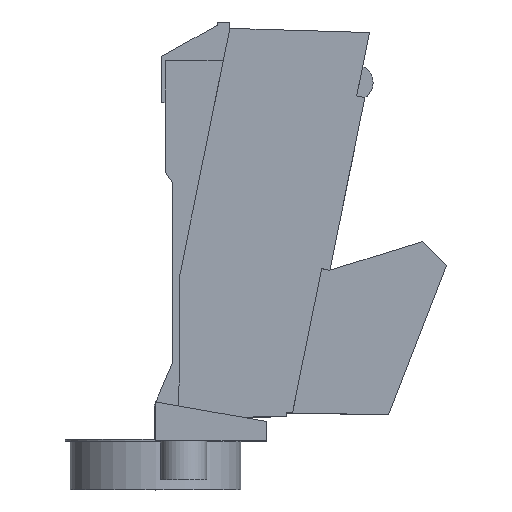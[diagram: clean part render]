
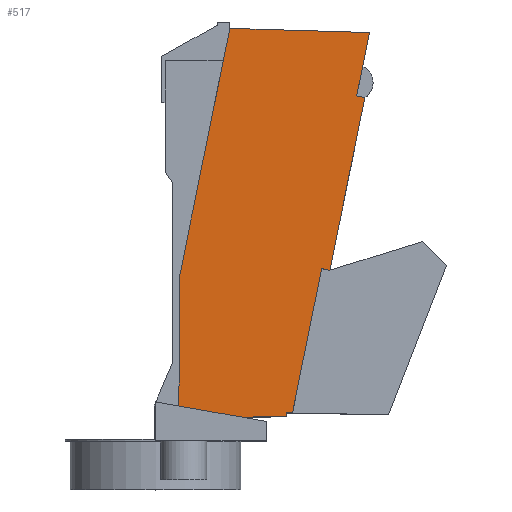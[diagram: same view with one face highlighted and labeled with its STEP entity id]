
A CAD part, top view. The second image highlights one B-rep face of the part: STEP entity #517.
In plain terms, the highlighted planar face has unit normal (0, 0, 1).
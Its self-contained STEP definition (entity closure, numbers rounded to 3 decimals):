
#18 = AXIS2_PLACEMENT_3D ( 'NONE', #1692, #1698, #1699 ) ;
#102 = AXIS2_PLACEMENT_3D ( 'NONE', #1402, #1401, #1400 ) ;
#172 = EDGE_CURVE ( 'NONE', #1347, #1397, #665, .T. ) ;
#173 = EDGE_CURVE ( 'NONE', #1298, #1333, #666, .T. ) ;
#174 = EDGE_CURVE ( 'NONE', #1333, #1314, #664, .T. ) ;
#175 = EDGE_CURVE ( 'NONE', #1396, #1347, #662, .T. ) ;
#176 = EDGE_CURVE ( 'NONE', #1386, #1396, #660, .T. ) ;
#177 = EDGE_CURVE ( 'NONE', #1397, #1298, #658, .T. ) ;
#178 = EDGE_CURVE ( 'NONE', #1314, #1341, #656, .T. ) ;
#179 = EDGE_CURVE ( 'NONE', #1341, #1350, #654, .T. ) ;
#180 = EDGE_CURVE ( 'NONE', #1377, #1350, #652, .T. ) ;
#181 = EDGE_CURVE ( 'NONE', #1381, #1377, #650, .T. ) ;
#182 = EDGE_CURVE ( 'NONE', #1381, #1370, #680, .T. ) ;
#183 = EDGE_CURVE ( 'NONE', #1370, #1409, #646, .T. ) ;
#184 = EDGE_CURVE ( 'NONE', #1409, #1386, #644, .T. ) ;
#305 = FACE_OUTER_BOUND ( 'NONE', #802, .T. ) ;
#517 = ADVANCED_FACE ( 'NONE', ( #305 ), #1689, .T. ) ;
#643 = VECTOR ( 'NONE', #1364, 1000. ) ;
#644 = LINE ( 'NONE', #1365, #643 ) ;
#645 = VECTOR ( 'NONE', #1366, 1000. ) ;
#646 = LINE ( 'NONE', #1367, #645 ) ;
#648 = VECTOR ( 'NONE', #1368, 1000. ) ;
#649 = VECTOR ( 'NONE', #1372, 1000. ) ;
#650 = LINE ( 'NONE', #1373, #649 ) ;
#651 = VECTOR ( 'NONE', #1375, 1000. ) ;
#652 = LINE ( 'NONE', #1376, #651 ) ;
#653 = VECTOR ( 'NONE', #1379, 1000. ) ;
#654 = LINE ( 'NONE', #1380, #653 ) ;
#655 = VECTOR ( 'NONE', #1382, 1000. ) ;
#656 = LINE ( 'NONE', #1383, #655 ) ;
#657 = VECTOR ( 'NONE', #1385, 1000. ) ;
#658 = LINE ( 'NONE', #1387, #657 ) ;
#659 = VECTOR ( 'NONE', #1388, 1000. ) ;
#660 = LINE ( 'NONE', #1389, #659 ) ;
#661 = VECTOR ( 'NONE', #1390, 1000. ) ;
#662 = LINE ( 'NONE', #1391, #661 ) ;
#663 = VECTOR ( 'NONE', #1393, 1000. ) ;
#664 = LINE ( 'NONE', #1394, #663 ) ;
#665 = CIRCLE ( 'NONE', #102, 3. ) ;
#666 = LINE ( 'NONE', #1405, #668 ) ;
#668 = VECTOR ( 'NONE', #1395, 1000. ) ;
#680 = LINE ( 'NONE', #1398, #648 ) ;
#802 = EDGE_LOOP ( 'NONE', ( #2117, #2144, #2118, #2143, #2106, #2105, #2104, #2103, #2102, #2100, #2101, #2098, #2099 ) ) ;
#1298 = VERTEX_POINT ( 'NONE', #1776 ) ;
#1314 = VERTEX_POINT ( 'NONE', #1781 ) ;
#1333 = VERTEX_POINT ( 'NONE', #1788 ) ;
#1341 = VERTEX_POINT ( 'NONE', #1790 ) ;
#1347 = VERTEX_POINT ( 'NONE', #1792 ) ;
#1350 = VERTEX_POINT ( 'NONE', #1793 ) ;
#1364 = DIRECTION ( 'NONE',  ( -0.199, -0.98, 0. ) ) ;
#1365 = CARTESIAN_POINT ( 'NONE',  ( 17.765, 84.772, 12.1 ) ) ;
#1366 = DIRECTION ( 'NONE',  ( -1., 0.03, 0. ) ) ;
#1367 = CARTESIAN_POINT ( 'NONE',  ( 17.765, 84.772, 12.1 ) ) ;
#1368 = DIRECTION ( 'NONE',  ( 0.199, 0.98, 0. ) ) ;
#1370 = VERTEX_POINT ( 'NONE', #1798 ) ;
#1372 = DIRECTION ( 'NONE',  ( 0.98, -0.199, 0. ) ) ;
#1373 = CARTESIAN_POINT ( 'NONE',  ( 8.032, 78.152, 12.1 ) ) ;
#1375 = DIRECTION ( 'NONE',  ( -0.199, -0.98, 0. ) ) ;
#1376 = CARTESIAN_POINT ( 'NONE',  ( 38.299, 35.092, 12.1 ) ) ;
#1377 = VERTEX_POINT ( 'NONE', #1800 ) ;
#1379 = DIRECTION ( 'NONE',  ( 0.98, -0.199, 0. ) ) ;
#1380 = CARTESIAN_POINT ( 'NONE',  ( 0.838, 42.693, 12.1 ) ) ;
#1381 = VERTEX_POINT ( 'NONE', #1802 ) ;
#1382 = DIRECTION ( 'NONE',  ( 0.199, 0.98, 0. ) ) ;
#1383 = CARTESIAN_POINT ( 'NONE',  ( 45.06, 76.962, 12.1 ) ) ;
#1385 = DIRECTION ( 'NONE',  ( 1., 0.011, 0. ) ) ;
#1386 = VERTEX_POINT ( 'NONE', #1804 ) ;
#1387 = CARTESIAN_POINT ( 'NONE',  ( 20.335, 4.92, 12.1 ) ) ;
#1388 = DIRECTION ( 'NONE',  ( -0.009, -1., 0. ) ) ;
#1389 = CARTESIAN_POINT ( 'NONE',  ( 7.215, 0., 12.1 ) ) ;
#1390 = DIRECTION ( 'NONE',  ( 0.985, -0.174, 0. ) ) ;
#1391 = CARTESIAN_POINT ( 'NONE',  ( 20.871, 4.772, 12.1 ) ) ;
#1393 = DIRECTION ( 'NONE',  ( 1., -0.017, 0. ) ) ;
#1394 = CARTESIAN_POINT ( 'NONE',  ( 29.38, 5.785, 12.1 ) ) ;
#1395 = DIRECTION ( 'NONE',  ( 0., 1., 0. ) ) ;
#1396 = VERTEX_POINT ( 'NONE', #1806 ) ;
#1397 = VERTEX_POINT ( 'NONE', #1807 ) ;
#1398 = CARTESIAN_POINT ( 'NONE',  ( 45.06, 76.962, 12.1 ) ) ;
#1400 = DIRECTION ( 'NONE',  ( 1., 0., 0. ) ) ;
#1401 = DIRECTION ( 'NONE',  ( 0., 0., -1. ) ) ;
#1402 = CARTESIAN_POINT ( 'NONE',  ( 20.368, 1.92, 12.1 ) ) ;
#1405 = CARTESIAN_POINT ( 'NONE',  ( 29.38, 5.02, 12.1 ) ) ;
#1409 = VERTEX_POINT ( 'NONE', #1810 ) ;
#1689 = PLANE ( 'NONE',  #18 ) ;
#1692 = CARTESIAN_POINT ( 'NONE',  ( 20.368, 1.92, 12.1 ) ) ;
#1698 = DIRECTION ( 'NONE',  ( 0., 0., 1. ) ) ;
#1699 = DIRECTION ( 'NONE',  ( 1., 0., 0. ) ) ;
#1776 = CARTESIAN_POINT ( 'NONE',  ( 29.38, 5.02, 12.1 ) ) ;
#1781 = CARTESIAN_POINT ( 'NONE',  ( 30.613, 5.763, 12.1 ) ) ;
#1788 = CARTESIAN_POINT ( 'NONE',  ( 29.38, 5.785, 12.1 ) ) ;
#1790 = CARTESIAN_POINT ( 'NONE',  ( 36.633, 35.43, 12.1 ) ) ;
#1792 = CARTESIAN_POINT ( 'NONE',  ( 20.1, 4.908, 12.1 ) ) ;
#1793 = CARTESIAN_POINT ( 'NONE',  ( 38.299, 35.092, 12.1 ) ) ;
#1798 = CARTESIAN_POINT ( 'NONE',  ( 46.47, 83.91, 12.1 ) ) ;
#1800 = CARTESIAN_POINT ( 'NONE',  ( 45.494, 70.551, 12.1 ) ) ;
#1802 = CARTESIAN_POINT ( 'NONE',  ( 43.828, 70.889, 12.1 ) ) ;
#1804 = CARTESIAN_POINT ( 'NONE',  ( 7.52, 34.28, 12.1 ) ) ;
#1806 = CARTESIAN_POINT ( 'NONE',  ( 7.279, 7.169, 12.1 ) ) ;
#1807 = CARTESIAN_POINT ( 'NONE',  ( 20.335, 4.92, 12.1 ) ) ;
#1810 = CARTESIAN_POINT ( 'NONE',  ( 17.765, 84.772, 12.1 ) ) ;
#2098 = ORIENTED_EDGE ( 'NONE', *, *, #183, .T. ) ;
#2099 = ORIENTED_EDGE ( 'NONE', *, *, #184, .T. ) ;
#2100 = ORIENTED_EDGE ( 'NONE', *, *, #181, .F. ) ;
#2101 = ORIENTED_EDGE ( 'NONE', *, *, #182, .T. ) ;
#2102 = ORIENTED_EDGE ( 'NONE', *, *, #180, .F. ) ;
#2103 = ORIENTED_EDGE ( 'NONE', *, *, #179, .T. ) ;
#2104 = ORIENTED_EDGE ( 'NONE', *, *, #178, .T. ) ;
#2105 = ORIENTED_EDGE ( 'NONE', *, *, #174, .T. ) ;
#2106 = ORIENTED_EDGE ( 'NONE', *, *, #173, .T. ) ;
#2117 = ORIENTED_EDGE ( 'NONE', *, *, #176, .T. ) ;
#2118 = ORIENTED_EDGE ( 'NONE', *, *, #172, .T. ) ;
#2143 = ORIENTED_EDGE ( 'NONE', *, *, #177, .T. ) ;
#2144 = ORIENTED_EDGE ( 'NONE', *, *, #175, .T. ) ;
